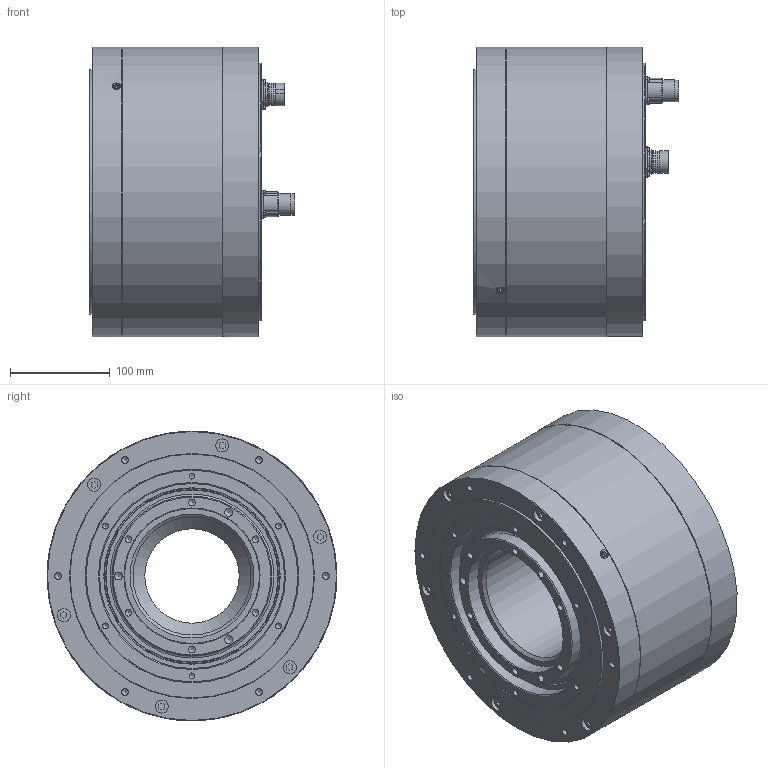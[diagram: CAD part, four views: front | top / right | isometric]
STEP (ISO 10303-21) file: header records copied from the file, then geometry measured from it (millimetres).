
FILE_DESCRIPTION( ( 'Unknown' ), '1' );
FILE_NAME( 'Q:/SKA DDR in acciaio/WEB File/SKA RT 245/3D/245CC070.stp', 'Unknown', ( 'Unknown' ), ( 'Unknown' ), 'PSStep 14.0', 'Unknown', ' ' );
FILE_SCHEMA( ( 'AUTOMOTIVE_DESIGN { 1 0 10303 214 1 1 1 1 }' ) );
Length unit declared in the file: millimetre
Products named in the file (17): Assem1; CN M23 PAN-POT BEGA 120 4 + 4 pin SpTcR; CN M23 PAN-SEG AEGA 139 17 pin SpTcR; 245FF049; 245VV041; 245FF050; 245FP010; Vite a brugola testa cil 8,8 -  M 2,5 x 8; Anello OR 3 D200-oa0; Anello OR 2,62 D240,97-3950-oa1; Anello OR 2,62 D247,32-3975-oa2; Vite a brugola testa svasata 10,9 -  M  4 x 16; Vite a brugola testa cil 12,9 -  M  8 x 35; Vite a brugola testa cil 12,9 -  M  6 x 40; Grano senza punta M  6 x 10; 245FS037; 245GG035_60
Assembly tree (37 placements, depth 2):
  Assem1
    CN M23 PAN-POT BEGA 120 4 + 4 pin SpTcR
    CN M23 PAN-SEG AEGA 139 17 pin SpTcR
    245FF049
    245VV041
    245FF050
    245FP010
    Vite a brugola testa cil 8,8 -  M 2,5 x 8  x8
    Anello OR 3 D200-oa0
    Anello OR 2,62 D240,97-3950-oa1
    Anello OR 2,62 D247,32-3975-oa2
    Vite a brugola testa svasata 10,9 -  M  4 x 16  x4
    Vite a brugola testa cil 12,9 -  M  8 x 35  x6
    Vite a brugola testa cil 12,9 -  M  6 x 40  x6
    Grano senza punta M  6 x 10  x2
    245FS037
    245GG035_60
Bounding box: 206 x 290 x 290 mm (x, y, z)
Volume: 5815382.7 mm3; surface area: 909805.5 mm2
Topology: 37 solids, 37 shells, 914 faces, 2084 edges, 1361 vertices
Faces by surface type: plane 401, cylinder 333, cone 148, torus 24, sphere 8
Full cylindrical faces by diameter (mm): 1.5 x4, 2 x17, 2.013 x8, 2.5 x12, 2.7 x4, 2.8 x4, 3.242 x12, 3.4 x4, 4 x6, 4.134 x12, 4.5 x4, 4.7 x8, 4.917 x14, 6 x14, 6.5 x6, 6.647 x52, 8 x12, 8.5 x12, 9 x2, 10 x6, 12 x6, 13 x12, 16 x1, 17 x2, 19.8 x2, 20 x2, 21 x2, 21.5 x2, 22 x2, 23 x2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
Entity records: 19930 total; most frequent: CARTESIAN_POINT 3101, DIRECTION 2848, ORIENTED_EDGE 1874, AXIS2_PLACEMENT_3D 1290, EDGE_LOOP 1204, EDGE_CURVE 937, FACE_OUTER_BOUND 903, VERTEX_POINT 855
